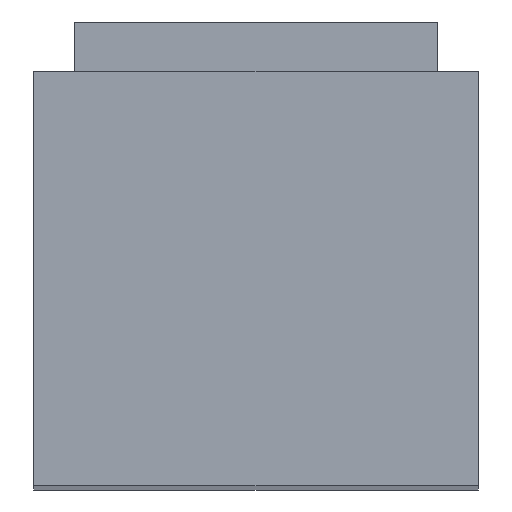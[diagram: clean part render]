
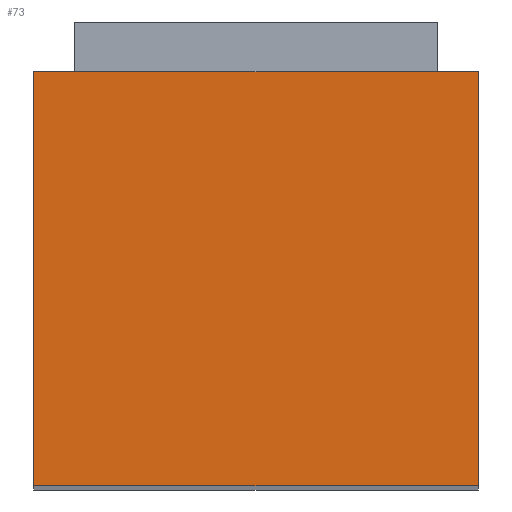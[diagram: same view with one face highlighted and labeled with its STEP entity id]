
A CAD part, top view. The second image highlights one B-rep face of the part: STEP entity #73.
In plain terms, the highlighted planar face has unit normal (0, 0, 1).
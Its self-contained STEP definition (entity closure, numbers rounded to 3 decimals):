
#73 = ADVANCED_FACE( '', ( #154 ), #155, .T. );
#154 = FACE_OUTER_BOUND( '', #241, .T. );
#155 = PLANE( '', #242 );
#241 = EDGE_LOOP( '', ( #385, #386, #387, #388 ) );
#242 = AXIS2_PLACEMENT_3D( '', #389, #390, #391 );
#385 = ORIENTED_EDGE( '', *, *, #544, .T. );
#386 = ORIENTED_EDGE( '', *, *, #508, .T. );
#387 = ORIENTED_EDGE( '', *, *, #498, .T. );
#388 = ORIENTED_EDGE( '', *, *, #523, .T. );
#389 = CARTESIAN_POINT( '', ( 0., 0., 0. ) );
#390 = DIRECTION( '', ( 0., 0., 1. ) );
#391 = DIRECTION( '', ( 1., 0., 0. ) );
#498 = EDGE_CURVE( '', #580, #581, #582, .T. );
#508 = EDGE_CURVE( '', #598, #580, #599, .T. );
#523 = EDGE_CURVE( '', #581, #622, #624, .T. );
#544 = EDGE_CURVE( '', #622, #598, #657, .T. );
#580 = VERTEX_POINT( '', #701 );
#581 = VERTEX_POINT( '', #702 );
#582 = LINE( '', #703, #704 );
#598 = VERTEX_POINT( '', #727 );
#599 = LINE( '', #728, #729 );
#622 = VERTEX_POINT( '', #758 );
#624 = LINE( '', #761, #762 );
#657 = LINE( '', #814, #815 );
#701 = CARTESIAN_POINT( '', ( 2.2, 0., 0. ) );
#702 = CARTESIAN_POINT( '', ( 2.2, 4.1, 0. ) );
#703 = CARTESIAN_POINT( '', ( 2.2, 0., 0. ) );
#704 = VECTOR( '', #885, 1000. );
#727 = CARTESIAN_POINT( '', ( -2.2, 0., 0. ) );
#728 = CARTESIAN_POINT( '', ( -2.2, 0., 0. ) );
#729 = VECTOR( '', #893, 1000. );
#758 = CARTESIAN_POINT( '', ( -2.2, 4.1, 0. ) );
#761 = CARTESIAN_POINT( '', ( 2.2, 4.1, 0. ) );
#762 = VECTOR( '', #910, 1000. );
#814 = CARTESIAN_POINT( '', ( -2.2, 4.1, 0. ) );
#815 = VECTOR( '', #935, 1000. );
#885 = DIRECTION( '', ( 0., 1., 0. ) );
#893 = DIRECTION( '', ( 1., 0., 0. ) );
#910 = DIRECTION( '', ( -1., 0., 0. ) );
#935 = DIRECTION( '', ( 0., -1., 0. ) );
